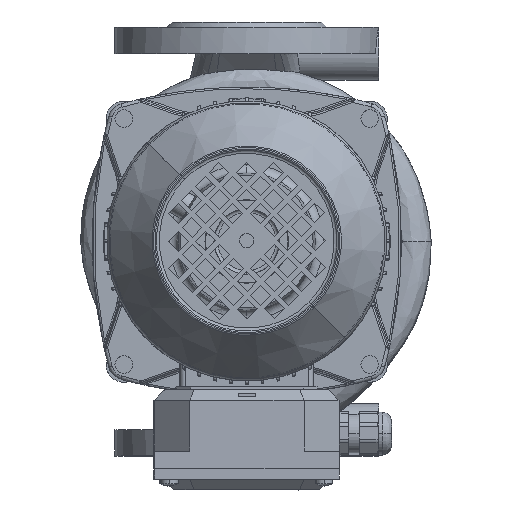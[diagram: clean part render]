
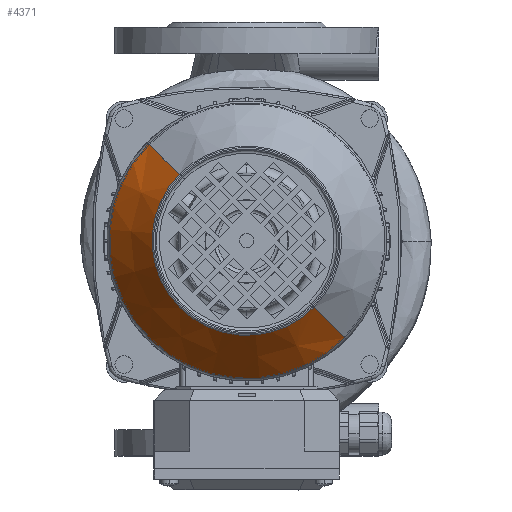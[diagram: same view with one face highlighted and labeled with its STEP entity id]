
A CAD part, top view. The second image highlights one B-rep face of the part: STEP entity #4371.
In plain terms, the highlighted conical face has half-angle 37 degrees and reference radius 53.876 mm.
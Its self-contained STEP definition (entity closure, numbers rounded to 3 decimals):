
#4371=ADVANCED_FACE('NONE',(#11500),#11501,.T.);
#11500=FACE_OUTER_BOUND('',#21628,.T.);
#11501=CONICAL_SURFACE('',#21629,53.876,0.646);
#21628=EDGE_LOOP('',(#34972,#34973,#34974,#34975));
#21629=AXIS2_PLACEMENT_3D('',#34976,#34977,#34978);
#34972=ORIENTED_EDGE('',*,*,#41714,.T.);
#34973=ORIENTED_EDGE('',*,*,#41792,.T.);
#34974=ORIENTED_EDGE('',*,*,#41715,.T.);
#34975=ORIENTED_EDGE('',*,*,#41818,.F.);
#34976=CARTESIAN_POINT('',(0.0,87.403,0.0));
#34977=DIRECTION('',(-0.0,-1.0,-0.0));
#34978=DIRECTION('',(0.0,0.0,-1.0));
#41714=EDGE_CURVE('',#52730,#52733,#52734,.T.);
#41715=EDGE_CURVE('',#52735,#52728,#52736,.T.);
#41792=EDGE_CURVE('NONE',#52733,#52735,#52867,.T.);
#41818=EDGE_CURVE('NONE',#52730,#52728,#52899,.T.);
#52728=VERTEX_POINT('',#69940);
#52730=VERTEX_POINT('NONE',#69942);
#52733=VERTEX_POINT('NONE',#69945);
#52734=LINE('',#69946,#69947);
#52735=VERTEX_POINT('',#69948);
#52736=LINE('',#69949,#69950);
#52867=CIRCLE('',#70439,78.592);
#52899=CIRCLE('',#70657,53.876);
#69940=CARTESIAN_POINT('',(0.,87.403,53.876));
#69942=CARTESIAN_POINT('',(0.,87.403,-53.876));
#69945=CARTESIAN_POINT('',(0.0,54.603,-78.592));
#69946=CARTESIAN_POINT('',(0.,87.403,-53.876));
#69947=VECTOR('',#78459,1.0);
#69948=CARTESIAN_POINT('',(0.,54.603,78.592));
#69949=CARTESIAN_POINT('',(0.,87.403,53.876));
#69950=VECTOR('',#78460,1.0);
#70439=AXIS2_PLACEMENT_3D('',#78587,#78588,#78589);
#70657=AXIS2_PLACEMENT_3D('',#78647,#78648,#78649);
#78459=DIRECTION('',(0.,-0.799,-0.602));
#78460=DIRECTION('',(0.,0.799,-0.602));
#78587=CARTESIAN_POINT('',(0.0,54.603,0.0));
#78588=DIRECTION('',(-0.0,1.0,0.0));
#78589=DIRECTION('',(0.0,0.0,1.0));
#78647=CARTESIAN_POINT('',(0.0,87.403,0.0));
#78648=DIRECTION('',(-0.0,1.0,0.0));
#78649=DIRECTION('',(0.0,0.0,1.0));
